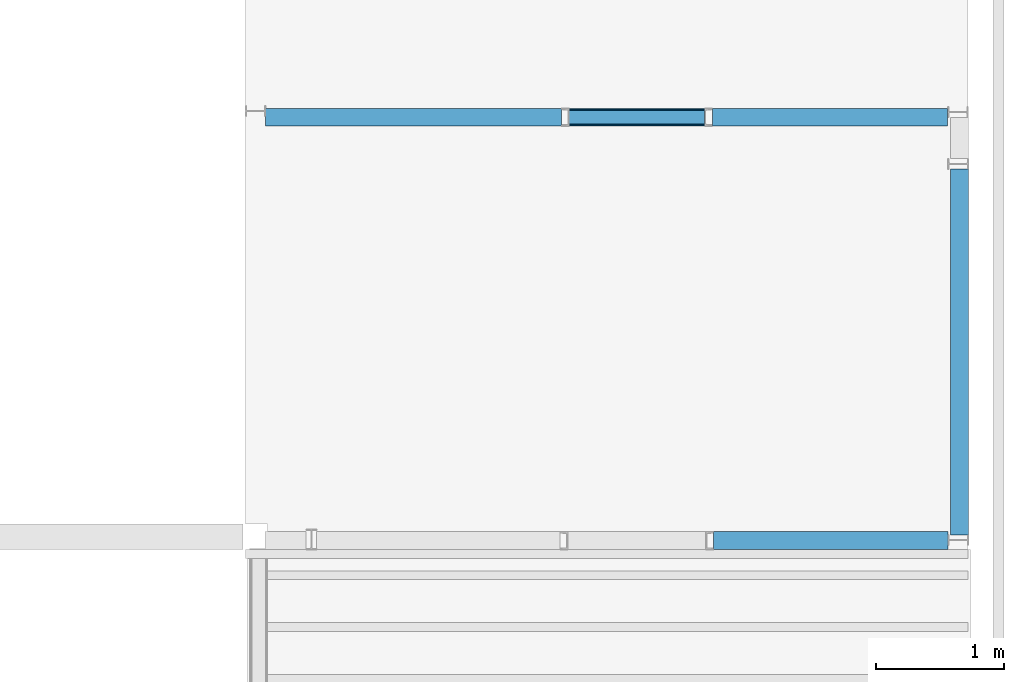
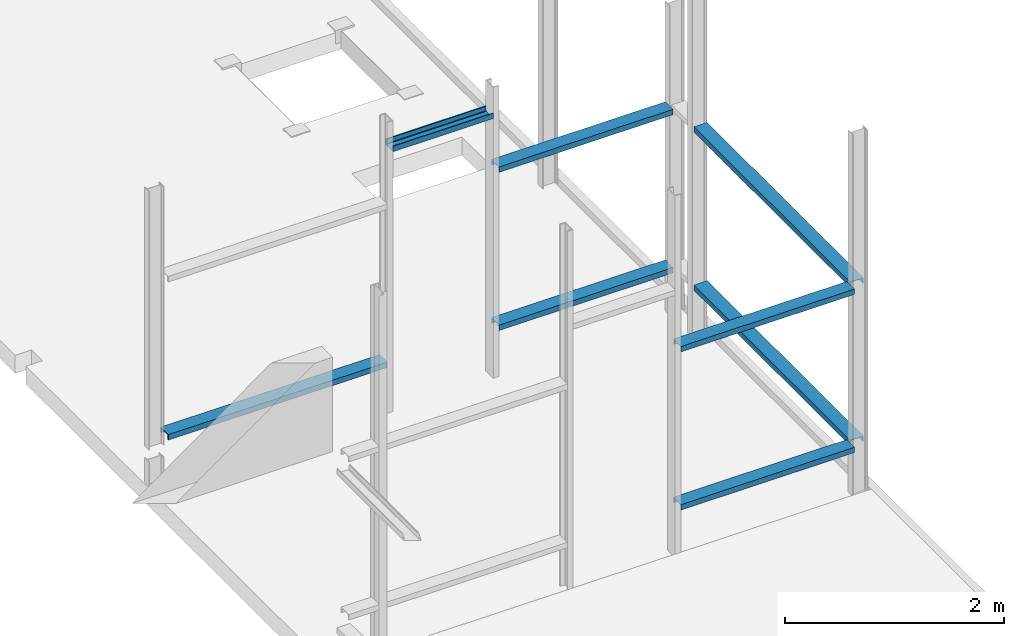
# One storey, part 5 of 8: 8 beams.
"""IFC2X3 building model written with IfcOpenShell, lengths in millimetres."""

import ifcopenshell
import ifcopenshell.guid

model = None  # the IFC model being written
_history = None  # IfcOwnerHistory: only IFC2X3 demands one
_inside = {}  # id of a spatial element -> (the spatial element, [elements in it])
_under = {}  # id of a project, library or spatial element -> (it, [spatial elements below it])
_declared = {}  # id of a project -> (the project, [libraries it declares])
_typed = {}  # id of a type object -> (the type object, [elements of that type])
_made_of = {}  # id of a material, layer set ... -> (it, [elements and type objects made of it])


def new_model(schema):
    """Start an empty IFC model of exactly this schema.

    Asked for "IFC4X3", IfcOpenShell would pick the latest addendum, in which some entities
    have other attributes; the version numbers below select the first issue.
    IFC2X3 requires an IfcOwnerHistory on every rooted entity: one is made here for all.
    """
    global model, _history
    if schema == "IFC4X3":
        model = ifcopenshell.file(schema_version=(4, 3, 0, 0))
    else:
        model = ifcopenshell.file(schema=schema)
    _inside.clear()
    _under.clear()
    _declared.clear()
    _typed.clear()
    _made_of.clear()
    _history = None
    if model.schema == "IFC2X3":
        org = make("IfcOrganization", Name="unknown")
        user = make(
            "IfcPersonAndOrganization",
            ThePerson=make("IfcPerson", FamilyName="unknown"),
            TheOrganization=org,
        )
        app = make(
            "IfcApplication",
            ApplicationDeveloper=org,
            Version="unknown",
            ApplicationFullName="unknown",
            ApplicationIdentifier="unknown",
        )
        _history = make(
            "IfcOwnerHistory",
            OwningUser=user,
            OwningApplication=app,
            ChangeAction="ADDED",
            CreationDate=0,
        )
    return model


def make(cls, **values):
    """One entity of the class cls with the attributes given. An attribute that is None is left unset."""
    return model.create_entity(
        cls, **{name: value for name, value in values.items() if value is not None}
    )


def entity(cls, *values):
    """Any entity or typed value of the class cls, its attributes in the order of the schema. None: left unset."""
    e = model.create_entity(cls)
    for i, value in enumerate(values):
        if value is not None:
            e[i] = value
    return e


def rooted(cls, **values):
    """An entity with a GlobalId (a new one), such as an element, a storey or a relation."""
    return make(cls, GlobalId=ifcopenshell.guid.new(), OwnerHistory=_history, **values)


def si_unit(unit_type, name, prefix=None):
    """IfcSIUnit, for example si_unit("LENGTHUNIT", "METRE", prefix="MILLI")."""
    return make("IfcSIUnit", UnitType=unit_type, Prefix=prefix, Name=name)


def converted_unit(unit_type, name, factor, base, dimensions=None, offset=None):
    """IfcConversionBasedUnit, such as the inch: factor (a typed value) times the base unit."""
    return make(
        "IfcConversionBasedUnit"
        if offset is None
        else "IfcConversionBasedUnitWithOffset",
        ConversionOffset=offset,
        Dimensions=None
        if dimensions is None
        else entity("IfcDimensionalExponents", *dimensions),
        UnitType=unit_type,
        Name=name,
        ConversionFactor=make(
            "IfcMeasureWithUnit", ValueComponent=factor, UnitComponent=base
        ),
    )


def derived_unit(unit_type, elements):
    """IfcDerivedUnit: a product of units, each with its exponent."""
    return make(
        "IfcDerivedUnit",
        Elements=[
            make("IfcDerivedUnitElement", Unit=unit, Exponent=power)
            for unit, power in elements
        ],
        UnitType=unit_type,
    )


def assignment(units):
    """IfcUnitAssignment: the units of a project."""
    return None if units is None else make("IfcUnitAssignment", Units=units)


def point(xyz):
    """IfcCartesianPoint."""
    return None if xyz is None else make("IfcCartesianPoint", Coordinates=xyz)


def direction(xyz):
    """IfcDirection."""
    return None if xyz is None else make("IfcDirection", DirectionRatios=xyz)


def frame(location, z_axis=None, x_axis=None):
    """IfcAxis2Placement3D, a coordinate frame: its origin and axes. An axis left out is left unset."""
    return make(
        "IfcAxis2Placement3D",
        Location=point(location),
        Axis=direction(z_axis),
        RefDirection=direction(x_axis),
    )


def frame_2d(location, x_axis=None):
    """IfcAxis2Placement2D, a coordinate frame in the plane: its origin and x axis."""
    return make(
        "IfcAxis2Placement2D", Location=point(location), RefDirection=direction(x_axis)
    )


def origin():
    """The frame at (0, 0, 0) with its axes left unset."""
    return frame((0.0, 0.0, 0.0))


def place(relative_to, where):
    """IfcLocalPlacement: puts the frame where relative to a parent placement (None: the world)."""
    return make(
        "IfcLocalPlacement", PlacementRelTo=relative_to, RelativePlacement=where
    )


def context(
    kind, dimensions, precision=None, world=None, true_north=None, identifier=None
):
    """IfcGeometricRepresentationContext, for example the 3D "Model" context."""
    return make(
        "IfcGeometricRepresentationContext",
        ContextIdentifier=identifier,
        ContextType=kind,
        CoordinateSpaceDimension=dimensions,
        Precision=precision,
        WorldCoordinateSystem=world,
        TrueNorth=true_north,
    )


def subcontext(parent, identifier, kind, view, scale=None):
    """IfcGeometricRepresentationSubContext, for example "Body" below "Model"."""
    return make(
        "IfcGeometricRepresentationSubContext",
        ContextIdentifier=identifier,
        ContextType=kind,
        ParentContext=parent,
        TargetScale=scale,
        TargetView=view,
    )


def project(units=None, contexts=None):
    """IfcProject with its units and contexts."""
    return rooted(
        "IfcProject",
        Name="project",
        RepresentationContexts=contexts,
        UnitsInContext=assignment(units),
    )


def spatial(cls, under=None, at=None, **own):
    """A site, building, storey or space (cls), placed at a placement, below another one or the project."""
    s = rooted(cls, ObjectPlacement=at, **own)
    if under is not None:
        _under.setdefault(under.id(), (under, []))[1].append(s)
    return s


def polyline(points):
    """IfcPolyline through the points."""
    return make("IfcPolyline", Points=[point(p) for p in points])


def circle_curve(where, radius):
    """IfcCircle in the frame where."""
    return make("IfcCircle", Position=where, Radius=radius)


def parameter(value):
    """IfcParameterValue: where a trimmed curve begins or ends, as a parameter of its basis curve."""
    return model.create_entity("IfcParameterValue", value)


def trimmed(basis, trim1, trim2, sense, master):
    """IfcTrimmedCurve: the piece of a basis curve between two trims."""
    return make(
        "IfcTrimmedCurve",
        BasisCurve=basis,
        Trim1=trim1,
        Trim2=trim2,
        SenseAgreement=sense,
        MasterRepresentation=master,
    )


def segment(curve, same_sense, transition):
    """IfcCompositeCurveSegment."""
    return make(
        "IfcCompositeCurveSegment",
        Transition=transition,
        SameSense=same_sense,
        ParentCurve=curve,
    )


def composite_curve(segments, self_intersect=None):
    """IfcCompositeCurve: segments joined end to end."""
    return make("IfcCompositeCurve", Segments=segments, SelfIntersect=self_intersect)


def outline(outer, holes=None, kind="AREA"):
    """IfcArbitraryClosedProfileDef: a profile drawn as a closed curve; with holes, ...WithVoids."""
    if holes is None:
        return make("IfcArbitraryClosedProfileDef", ProfileType=kind, OuterCurve=outer)
    return make(
        "IfcArbitraryProfileDefWithVoids",
        ProfileType=kind,
        OuterCurve=outer,
        InnerCurves=holes,
    )


def extrude(swept, where, along, depth):
    """IfcExtrudedAreaSolid: the profile swept, set in the frame where, extruded along a direction by depth."""
    return make(
        "IfcExtrudedAreaSolid",
        SweptArea=swept,
        Position=where,
        ExtrudedDirection=direction(along),
        Depth=depth,
    )


def shape(context_of_items, identifier, shape_type, items):
    """IfcShapeRepresentation: the items that make up one representation, for example the "Body"."""
    return make(
        "IfcShapeRepresentation",
        ContextOfItems=context_of_items,
        RepresentationIdentifier=identifier,
        RepresentationType=shape_type,
        Items=items,
    )


def material(Name=None, Category=None):
    """IfcMaterial."""
    return make("IfcMaterial", Name=Name, Category=Category)


def made_of(thing, what):
    """Note that an element or type object is made of a material, layer set ...; save() writes the relation."""
    if what is not None:
        _made_of.setdefault(what.id(), (what, []))[1].append(thing)
    return thing


def type_object(cls, material=None, **own):
    """A type object (cls), such as IfcWallType, which elements share."""
    return made_of(rooted(cls, **own), material)


def element(
    cls,
    number,
    at=None,
    inside=None,
    cuts=None,
    type_object=None,
    material=None,
    context=None,
    identifier="Body",
    shape_type=None,
    held_by="IfcProductDefinitionShape",
    body=None,
    shapes=None,
    **own,
):
    """One element of the class cls, such as IfcWall. Its Tag is "e" and its number.

    at: its placement. inside: the storey or other place that contains it. cuts: it is an
    opening in that element (IfcRelVoidsElement). A single representation is given by context,
    identifier, shape_type and body (its items); several are given by shapes. held_by: the class
    of the entity that holds the representations. save() writes the other relations.
    """
    e = rooted(cls, Tag="e%d" % number, ObjectPlacement=at, **own)
    if body is not None:
        shapes = [shape(context, identifier, shape_type, body)]
    if shapes is not None:
        e.Representation = make(held_by, Representations=shapes)
    if inside is not None:
        _inside.setdefault(inside.id(), (inside, []))[1].append(e)
    if cuts is not None:
        rooted(
            "IfcRelVoidsElement", RelatingBuildingElement=cuts, RelatedOpeningElement=e
        )
    if type_object is not None:
        _typed.setdefault(type_object.id(), (type_object, []))[1].append(e)
    return made_of(e, material)


def aggregate(whole, parts):
    """IfcRelAggregates: a whole, such as a stair, and the parts it consists of."""
    return rooted("IfcRelAggregates", RelatingObject=whole, RelatedObjects=parts)


def save(model, path):
    """Write the relations noted so far, then the file.

    IfcRelAggregates (storeys below a building ...), IfcRelContainedInSpatialStructure (elements
    in a storey), IfcRelDefinesByType, IfcRelAssociatesMaterial and IfcRelDeclares: one each for
    every whole, place, type object, material and project.
    """
    for whole, parts in _under.values():
        aggregate(whole, parts)
    for where, things in _inside.values():
        rooted(
            "IfcRelContainedInSpatialStructure",
            RelatedElements=things,
            RelatingStructure=where,
        )
    for kind, things in _typed.values():
        rooted("IfcRelDefinesByType", RelatedObjects=things, RelatingType=kind)
    for what, things in _made_of.values():
        rooted("IfcRelAssociatesMaterial", RelatedObjects=things, RelatingMaterial=what)
    for by, libraries in _declared.values():
        rooted("IfcRelDeclares", RelatingContext=by, RelatedDefinitions=libraries)
    model.write(path)


model = new_model("IFC2X3")

# Units and contexts
model_context = context("Model", 3, precision=0.01, world=origin(), true_north=direction((6.123031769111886e-17, 1.0)))
plan_context = context("Plan", 3, precision=0.01, world=origin(), true_north=direction((6.123031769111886e-17, 1.0)))
body_context = subcontext(model_context, "Body", "Model", "MODEL_VIEW")
ifc_project = project(units=[si_unit("LENGTHUNIT", "METRE", prefix="MILLI"), si_unit("AREAUNIT", "SQUARE_METRE"), si_unit("VOLUMEUNIT", "CUBIC_METRE"), converted_unit("PLANEANGLEUNIT", "DEGREE", entity("IfcPlaneAngleMeasure", 0.017453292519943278), si_unit("PLANEANGLEUNIT", "RADIAN"), dimensions=[0, 0, 0, 0, 0, 0, 0]), si_unit("MASSUNIT", "GRAM", prefix="KILO"), derived_unit("MASSDENSITYUNIT", [(si_unit("MASSUNIT", "GRAM", prefix="KILO"), 1), (si_unit("LENGTHUNIT", "METRE"), -3)]), derived_unit("IONCONCENTRATIONUNIT", [(si_unit("MASSUNIT", "GRAM", prefix="KILO"), 1), (si_unit("LENGTHUNIT", "METRE"), -3)]), derived_unit("MOMENTOFINERTIAUNIT", [(si_unit("LENGTHUNIT", "METRE"), 4)]), si_unit("TIMEUNIT", "SECOND"), si_unit("FREQUENCYUNIT", "HERTZ"), si_unit("THERMODYNAMICTEMPERATUREUNIT", "DEGREE_CELSIUS"), derived_unit("THERMALTRANSMITTANCEUNIT", [(si_unit("MASSUNIT", "GRAM", prefix="KILO"), 1), (si_unit("THERMODYNAMICTEMPERATUREUNIT", "KELVIN"), -1), (si_unit("TIMEUNIT", "SECOND"), -3)]), derived_unit("THERMALCONDUCTANCEUNIT", [(si_unit("MASSUNIT", "GRAM", prefix="KILO"), 1), (si_unit("THERMODYNAMICTEMPERATUREUNIT", "KELVIN"), -1), (si_unit("TIMEUNIT", "SECOND"), -3), (si_unit("LENGTHUNIT", "METRE"), 1)]), derived_unit("VOLUMETRICFLOWRATEUNIT", [(si_unit("LENGTHUNIT", "METRE", prefix="DECI"), 3), (si_unit("TIMEUNIT", "SECOND"), -1)]), derived_unit("MASSFLOWRATEUNIT", [(si_unit("MASSUNIT", "GRAM", prefix="KILO"), 1), (si_unit("TIMEUNIT", "SECOND"), -1)]), derived_unit("ROTATIONALFREQUENCYUNIT", [(si_unit("TIMEUNIT", "SECOND"), -1)]), si_unit("ELECTRICCURRENTUNIT", "AMPERE"), si_unit("ELECTRICVOLTAGEUNIT", "VOLT"), si_unit("POWERUNIT", "WATT"), si_unit("FORCEUNIT", "NEWTON", prefix="KILO"), si_unit("ILLUMINANCEUNIT", "LUX"), si_unit("LUMINOUSFLUXUNIT", "LUMEN"), si_unit("LUMINOUSINTENSITYUNIT", "CANDELA"), si_unit("ENERGYUNIT", "JOULE"), derived_unit("USERDEFINED", [(si_unit("MASSUNIT", "GRAM", prefix="KILO"), -1), (si_unit("LENGTHUNIT", "METRE"), -2), (si_unit("TIMEUNIT", "SECOND"), 3), (si_unit("LUMINOUSFLUXUNIT", "LUMEN"), 1)]), derived_unit("USERDEFINED", [(si_unit("MASSUNIT", "GRAM", prefix="KILO"), 1), (si_unit("TIMEUNIT", "SECOND"), -3), (si_unit("LENGTHUNIT", "METRE"), 3), (si_unit("ELECTRICCURRENTUNIT", "AMPERE"), -2)]), derived_unit("SOUNDPOWERUNIT", [(si_unit("MASSUNIT", "GRAM", prefix="KILO"), 1), (si_unit("TIMEUNIT", "SECOND"), -3), (si_unit("LENGTHUNIT", "METRE"), 2)]), derived_unit("SOUNDPRESSUREUNIT", [(si_unit("MASSUNIT", "GRAM", prefix="KILO"), 1), (si_unit("LENGTHUNIT", "METRE"), -1), (si_unit("TIMEUNIT", "SECOND"), -2)]), derived_unit("LINEARVELOCITYUNIT", [(si_unit("LENGTHUNIT", "METRE"), 1), (si_unit("TIMEUNIT", "SECOND"), -1)]), si_unit("PRESSUREUNIT", "PASCAL"), derived_unit("USERDEFINED", [(si_unit("MASSUNIT", "GRAM", prefix="KILO"), 1), (si_unit("LENGTHUNIT", "METRE"), -2), (si_unit("TIMEUNIT", "SECOND"), -2)]), derived_unit("LINEARFORCEUNIT", [(si_unit("MASSUNIT", "GRAM", prefix="KILO"), 1), (si_unit("TIMEUNIT", "SECOND"), -2)]), derived_unit("PLANARFORCEUNIT", [(si_unit("MASSUNIT", "GRAM", prefix="KILO"), 1), (si_unit("LENGTHUNIT", "METRE"), -1), (si_unit("TIMEUNIT", "SECOND"), -2)]), derived_unit("SPECIFICHEATCAPACITYUNIT", [(si_unit("THERMODYNAMICTEMPERATUREUNIT", "KELVIN"), -1), (si_unit("LENGTHUNIT", "METRE"), 2), (si_unit("TIMEUNIT", "SECOND"), -2)]), derived_unit("HEATFLUXDENSITYUNIT", [(si_unit("MASSUNIT", "GRAM", prefix="KILO"), 1), (si_unit("TIMEUNIT", "SECOND"), -3)]), derived_unit("HEATINGVALUEUNIT", [(si_unit("LENGTHUNIT", "METRE"), 2), (si_unit("TIMEUNIT", "SECOND"), -2)]), derived_unit("VAPORPERMEABILITYUNIT", [(si_unit("LENGTHUNIT", "METRE"), -1), (si_unit("TIMEUNIT", "SECOND"), 1)]), derived_unit("DYNAMICVISCOSITYUNIT", [(si_unit("MASSUNIT", "GRAM", prefix="KILO"), 1), (si_unit("TIMEUNIT", "SECOND"), -1), (si_unit("LENGTHUNIT", "METRE"), -1)]), derived_unit("THERMALEXPANSIONCOEFFICIENTUNIT", [(si_unit("THERMODYNAMICTEMPERATUREUNIT", "KELVIN"), -1)]), derived_unit("MODULUSOFELASTICITYUNIT", [(si_unit("MASSUNIT", "GRAM", prefix="KILO"), 1), (si_unit("LENGTHUNIT", "METRE"), -1), (si_unit("TIMEUNIT", "SECOND"), -2)]), derived_unit("ISOTHERMALMOISTURECAPACITYUNIT", [(si_unit("MASSUNIT", "GRAM", prefix="KILO"), -1), (si_unit("LENGTHUNIT", "METRE"), 3)]), derived_unit("MOISTUREDIFFUSIVITYUNIT", [(si_unit("TIMEUNIT", "SECOND"), -1), (si_unit("LENGTHUNIT", "METRE"), 2)]), derived_unit("MASSPERLENGTHUNIT", [(si_unit("MASSUNIT", "GRAM", prefix="KILO"), 1), (si_unit("LENGTHUNIT", "METRE"), -1)]), derived_unit("THERMALRESISTANCEUNIT", [(si_unit("MASSUNIT", "GRAM", prefix="KILO"), -1), (si_unit("TIMEUNIT", "SECOND"), 3), (si_unit("THERMODYNAMICTEMPERATUREUNIT", "KELVIN"), 1)]), derived_unit("ACCELERATIONUNIT", [(si_unit("LENGTHUNIT", "METRE"), 1), (si_unit("TIMEUNIT", "SECOND"), -2)]), derived_unit("ANGULARVELOCITYUNIT", [(si_unit("TIMEUNIT", "SECOND"), -1), (si_unit("PLANEANGLEUNIT", "RADIAN"), 1)]), derived_unit("LINEARSTIFFNESSUNIT", [(si_unit("MASSUNIT", "GRAM", prefix="KILO"), 1), (si_unit("TIMEUNIT", "SECOND"), -2)]), derived_unit("WARPINGCONSTANTUNIT", [(si_unit("LENGTHUNIT", "METRE"), 6)]), derived_unit("LINEARMOMENTUNIT", [(si_unit("MASSUNIT", "GRAM", prefix="KILO"), 1), (si_unit("LENGTHUNIT", "METRE"), 1), (si_unit("TIMEUNIT", "SECOND"), -2)]), derived_unit("TORQUEUNIT", [(si_unit("MASSUNIT", "GRAM", prefix="KILO"), 1), (si_unit("LENGTHUNIT", "METRE"), 2), (si_unit("TIMEUNIT", "SECOND"), -2)])], contexts=[model_context, plan_context])

# Site, building, storey
site_placement = place(None, origin())
site = spatial("IfcSite", under=ifc_project, at=site_placement, Name="Default", CompositionType="ELEMENT")
building_placement = place(site_placement, origin())
building = spatial("IfcBuilding", under=site, at=building_placement, CompositionType="ELEMENT")
storey_placement = place(building_placement, frame((0.0, 0.0, 3410.0)))
storey = spatial("IfcBuildingStorey", under=building, at=storey_placement, Name="01 eerste verdieping", CompositionType="ELEMENT", Elevation=3410.0000000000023)

# Beams
ifc_material = material(Name="constructiestaal S235")
beam_type = type_object("IfcBeamType", Name="28_SF_LIB_UNP ligger_dw:UNP140 (S235)", PredefinedType="NOTDEFINED")
beam_1_placement = place(storey_placement, frame((54062.19293735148, 27532.502495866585, 2300.0)))
element("IfcBeam", 1, at=beam_1_placement, inside=storey, type_object=beam_type, material=ifc_material, Name="28_SF_LIB_UNP ligger_dw:UNP140 (S235)", ObjectType="28_SF_LIB_UNP ligger_dw:UNP140 (S235)", context=body_context, shape_type="SweptSolid", body=[
    extrude(outline(composite_curve([segment(polyline([(-33.16666666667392, -69.9376027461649), (26.833333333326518, -69.9376027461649)]), True, "CONTINUOUS"), segment(polyline([(26.833333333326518, -69.93760274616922), (26.833333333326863, -65.16520177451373)]), True, "CONTINUOUS"), segment(trimmed(circle_curve(frame_2d((21.833333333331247, -65.16520177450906), x_axis=(1.0, 0.0)), 4.999999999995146), [parameter(0.0)], [parameter(90.00000000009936)], True, "PARAMETER"), True, "CONTINUOUS"), segment(polyline([(21.83333333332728, -60.165201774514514), (-16.166666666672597, -58.14041273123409)]), True, "CONTINUOUS"), segment(trimmed(circle_curve(frame_2d((-16.166666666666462, -48.14041273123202), x_axis=(0.0, -1.0)), 10.00000000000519), [parameter(270.00000000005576)], [parameter(0.0)], True, "PARAMETER"), False, "CONTINUOUS"), segment(polyline([(-26.16666666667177, -48.14041273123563), (-26.166666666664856, 47.62586063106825)]), True, "CONTINUOUS"), segment(trimmed(circle_curve(frame_2d((-16.166666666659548, 47.62586063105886), x_axis=(-1.0, 0.0)), 10.000000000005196), [parameter(270.00000000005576)], [parameter(0.0)], True, "PARAMETER"), False, "CONTINUOUS"), segment(polyline([(-16.16666666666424, 57.625860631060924), (21.833333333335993, 60.55495936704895)]), True, "CONTINUOUS"), segment(trimmed(circle_curve(frame_2d((21.833333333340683, 65.55495936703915), x_axis=(0.0, -1.0)), 4.999999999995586), [parameter(0.0)], [parameter(90.00000000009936)], True, "PARAMETER"), True, "CONTINUOUS"), segment(polyline([(26.8333333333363, 65.55495936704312), (26.833333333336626, 70.0623972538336)]), True, "CONTINUOUS"), segment(polyline([(26.833333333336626, 70.0623972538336), (-33.16666666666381, 70.06239725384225)]), True, "CONTINUOUS"), segment(polyline([(-33.16666666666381, 70.06239725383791), (-33.16666666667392, -69.93760274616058)]), True, "CONTINUOUS")], self_intersect=False)), frame((6.095988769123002e-07, -70.06239725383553, -33.16666666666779), z_axis=(1.0, 0.0, 0.0), x_axis=(0.0, 0.0, -1.0)), (0.0, 0.0, 1.0), 1827.499999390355),
])
beam_2_placement = place(storey_placement, frame((54062.19293735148, 27532.502495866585, 540.0)))
element("IfcBeam", 2, at=beam_2_placement, inside=storey, type_object=beam_type, material=ifc_material, Name="28_SF_LIB_UNP ligger_dw:UNP140 (S235)", ObjectType="28_SF_LIB_UNP ligger_dw:UNP140 (S235)", context=body_context, shape_type="SweptSolid", body=[
    extrude(outline(composite_curve([segment(polyline([(-33.1666666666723, -69.9376027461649), (26.833333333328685, -69.9376027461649)]), True, "CONTINUOUS"), segment(polyline([(26.833333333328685, -69.93760274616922), (26.83333333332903, -65.16520177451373)]), True, "CONTINUOUS"), segment(trimmed(circle_curve(frame_2d((21.833333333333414, -65.16520177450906), x_axis=(1.0, 0.0)), 4.999999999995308), [parameter(0.0)], [parameter(90.00000000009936)], True, "PARAMETER"), True, "CONTINUOUS"), segment(polyline([(21.83333333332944, -60.165201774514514), (-16.166666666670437, -58.14041273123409)]), True, "CONTINUOUS"), segment(trimmed(circle_curve(frame_2d((-16.1666666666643, -48.14041273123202), x_axis=(0.0, -1.0)), 10.000000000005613), [parameter(270.00000000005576)], [parameter(0.0)], True, "PARAMETER"), False, "CONTINUOUS"), segment(polyline([(-26.16666666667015, -48.14041273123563), (-26.166666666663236, 47.62586063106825)]), True, "CONTINUOUS"), segment(trimmed(circle_curve(frame_2d((-16.166666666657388, 47.62586063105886), x_axis=(-1.0, 0.0)), 10.000000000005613), [parameter(270.00000000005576)], [parameter(0.0)], True, "PARAMETER"), False, "CONTINUOUS"), segment(polyline([(-16.16666666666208, 57.625860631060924), (21.833333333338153, 60.55495936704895)]), True, "CONTINUOUS"), segment(trimmed(circle_curve(frame_2d((21.833333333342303, 65.55495936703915), x_axis=(0.0, -1.0)), 4.999999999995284), [parameter(0.0)], [parameter(90.00000000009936)], True, "PARAMETER"), True, "CONTINUOUS"), segment(polyline([(26.83333333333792, 65.55495936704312), (26.833333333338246, 70.0623972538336)]), True, "CONTINUOUS"), segment(polyline([(26.833333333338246, 70.0623972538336), (-33.16666666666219, 70.06239725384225)]), True, "CONTINUOUS"), segment(polyline([(-33.16666666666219, 70.06239725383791), (-33.1666666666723, -69.93760274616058)]), True, "CONTINUOUS")], self_intersect=False)), frame((6.096020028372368e-07, -70.06239725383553, -33.16666666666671), z_axis=(1.0, 0.0, 0.0), x_axis=(0.0, 0.0, -1.0)), (0.0, 0.0, 1.0), 1827.499999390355),
])
beam_3_placement = place(storey_placement, frame((55909.69293735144, 27508.320485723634, 2300.0), z_axis=(0.0, 0.0, 1.0), x_axis=(0.0, 1.0, 0.0)))
element("IfcBeam", 3, at=beam_3_placement, inside=storey, type_object=beam_type, material=ifc_material, Name="28_SF_LIB_UNP ligger_dw:UNP140 (S235)", ObjectType="28_SF_LIB_UNP ligger_dw:UNP140 (S235)", context=body_context, shape_type="SweptSolid", body=[
    extrude(outline(composite_curve([segment(polyline([(-33.166666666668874, -69.93760274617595), (26.833333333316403, -69.93760274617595)]), True, "CONTINUOUS"), segment(polyline([(26.833333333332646, -69.93760274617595), (26.83333333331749, -65.16520177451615)]), True, "CONTINUOUS"), segment(trimmed(circle_curve(frame_2d((21.833333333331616, -65.16520177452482), x_axis=(1.0, 0.0)), 5.0000000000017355), [parameter(0.0)], [parameter(89.99999999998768)], True, "PARAMETER"), True, "CONTINUOUS"), segment(polyline([(21.833333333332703, -60.165201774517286), (-16.166666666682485, -58.14041273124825)]), True, "CONTINUOUS"), segment(trimmed(circle_curve(frame_2d((-16.166666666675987, -48.14041273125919), x_axis=(0.0, -1.0)), 9.999999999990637), [parameter(269.99999999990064)], [parameter(0.0)], True, "PARAMETER"), False, "CONTINUOUS"), segment(polyline([(-26.166666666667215, -48.14041273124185), (-26.166666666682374, 47.62586063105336)]), True, "CONTINUOUS"), segment(trimmed(circle_curve(frame_2d((-16.166666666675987, 47.625860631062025), x_axis=(-1.0, 0.0)), 9.999999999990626), [parameter(269.99999999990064)], [parameter(0.0)], True, "PARAMETER"), False, "CONTINUOUS"), segment(polyline([(-16.16666666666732, 57.62586063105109), (21.83333333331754, 60.554959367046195)]), True, "CONTINUOUS"), segment(trimmed(circle_curve(frame_2d((21.833333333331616, 65.55495936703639), x_axis=(0.0, -1.0)), 5.000000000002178), [parameter(0.0)], [parameter(89.99999999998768)], True, "PARAMETER"), True, "CONTINUOUS"), segment(polyline([(26.833333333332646, 65.55495936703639), (26.83333333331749, 70.06239725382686)]), True, "CONTINUOUS"), segment(polyline([(26.833333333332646, 70.06239725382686), (-33.16666666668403, 70.06239725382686)]), True, "CONTINUOUS"), segment(polyline([(-33.16666666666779, 70.06239725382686), (-33.16666666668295, -69.93760274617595)]), True, "CONTINUOUS")], self_intersect=False)), frame((0.0, -70.06239725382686, -33.16666666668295), z_axis=(1.0, 0.0, 0.0), x_axis=(0.0, 0.0, -1.0)), (0.0, 0.0, 1.0), 2850.349999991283),
])
beam_4_placement = place(storey_placement, frame((55909.69293735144, 27508.320485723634, 540.0), z_axis=(0.0, 0.0, 1.0), x_axis=(0.0, 1.0, 0.0)))
element("IfcBeam", 4, at=beam_4_placement, inside=storey, type_object=beam_type, material=ifc_material, Name="28_SF_LIB_UNP ligger_dw:UNP140 (S235)", ObjectType="28_SF_LIB_UNP ligger_dw:UNP140 (S235)", context=body_context, shape_type="SweptSolid", body=[
    extrude(outline(composite_curve([segment(polyline([(-33.166666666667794, -69.93760274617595), (26.833333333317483, -69.93760274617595)]), True, "CONTINUOUS"), segment(polyline([(26.833333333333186, -69.93760274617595), (26.833333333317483, -65.16520177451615)]), True, "CONTINUOUS"), segment(trimmed(circle_curve(frame_2d((21.833333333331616, -65.16520177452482), x_axis=(1.0, 0.0)), 5.000000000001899), [parameter(0.0)], [parameter(89.99999999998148)], True, "PARAMETER"), True, "CONTINUOUS"), segment(polyline([(21.833333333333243, -60.165201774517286), (-16.166666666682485, -58.14041273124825)]), True, "CONTINUOUS"), segment(trimmed(circle_curve(frame_2d((-16.166666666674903, -48.14041273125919), x_axis=(0.0, -1.0)), 9.999999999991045), [parameter(269.9999999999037)], [parameter(0.0)], True, "PARAMETER"), False, "CONTINUOUS"), segment(polyline([(-26.16666666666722, -48.14041273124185), (-26.166666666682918, 47.62586063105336)]), True, "CONTINUOUS"), segment(trimmed(circle_curve(frame_2d((-16.166666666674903, 47.625860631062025), x_axis=(-1.0, 0.0)), 9.999999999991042), [parameter(269.9999999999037)], [parameter(0.0)], True, "PARAMETER"), False, "CONTINUOUS"), segment(polyline([(-16.166666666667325, 57.62586063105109), (21.833333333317, 60.554959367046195)]), True, "CONTINUOUS"), segment(trimmed(circle_curve(frame_2d((21.833333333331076, 65.55495936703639), x_axis=(0.0, -1.0)), 5.0000000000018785), [parameter(0.0)], [parameter(89.99999999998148)], True, "PARAMETER"), True, "CONTINUOUS"), segment(polyline([(26.833333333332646, 65.55495936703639), (26.833333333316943, 70.06239725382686)]), True, "CONTINUOUS"), segment(polyline([(26.833333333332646, 70.06239725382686), (-33.16666666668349, 70.06239725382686)]), True, "CONTINUOUS"), segment(polyline([(-33.166666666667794, 70.06239725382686), (-33.16666666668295, -69.93760274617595)]), True, "CONTINUOUS")], self_intersect=False)), frame((0.0, -70.06239725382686, -33.16666666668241), z_axis=(1.0, 0.0, 0.0), x_axis=(0.0, 0.0, -1.0)), (0.0, 0.0, 1.0), 2850.349999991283),
])
beam_5_placement = place(storey_placement, frame((52936.19293735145, 30692.6704857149, 2860.0)))
element("IfcBeam", 5, at=beam_5_placement, inside=storey, type_object=beam_type, material=ifc_material, Name="28_SF_LIB_UNP ligger_dw:UNP140 (S235)", ObjectType="28_SF_LIB_UNP ligger_dw:UNP140 (S235)", context=body_context, shape_type="SweptSolid", body=[
    extrude(outline(composite_curve([segment(polyline([(-26.833333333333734, -70.06239725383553), (33.16666666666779, -70.06239725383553)]), True, "CONTINUOUS"), segment(polyline([(33.16666666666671, -70.06239725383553), (33.16666666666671, 69.93760274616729)]), True, "CONTINUOUS"), segment(polyline([(33.16666666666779, 69.93760274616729), (-26.833333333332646, 69.93760274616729)]), True, "CONTINUOUS"), segment(polyline([(-26.833333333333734, 69.93760274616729), (-26.833333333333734, 65.16520177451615)]), True, "CONTINUOUS"), segment(trimmed(circle_curve(frame_2d((-21.833333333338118, 65.16520177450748), x_axis=(-1.0, 0.0)), 4.999999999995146), [parameter(0.0)], [parameter(90.00000000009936)], True, "PARAMETER"), True, "CONTINUOUS"), segment(polyline([(-21.833333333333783, 60.165201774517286), (16.16666666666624, 58.1404127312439)]), True, "CONTINUOUS"), segment(trimmed(circle_curve(frame_2d((16.166666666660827, 48.140412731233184), x_axis=(0.0, 1.0)), 10.00000000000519), [parameter(270.00000000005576)], [parameter(0.0)], True, "PARAMETER"), False, "CONTINUOUS"), segment(polyline([(26.16666666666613, 48.14041273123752), (26.16666666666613, -47.6258606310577)]), True, "CONTINUOUS"), segment(trimmed(circle_curve(frame_2d((16.166666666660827, -47.6258606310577), x_axis=(1.0, 0.0)), 10.000000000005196), [parameter(270.00000000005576)], [parameter(0.0)], True, "PARAMETER"), False, "CONTINUOUS"), segment(polyline([(16.16666666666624, -57.62586063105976), (-21.833333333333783, -60.554959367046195)]), True, "CONTINUOUS"), segment(trimmed(circle_curve(frame_2d((-21.833333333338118, -65.55495936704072), x_axis=(0.0, 1.0)), 4.999999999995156), [parameter(0.0)], [parameter(90.00000000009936)], True, "PARAMETER"), True, "CONTINUOUS"), segment(polyline([(-26.833333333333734, -65.55495936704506), (-26.833333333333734, -70.0623972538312)]), True, "CONTINUOUS")], self_intersect=False)), frame((0.0, 70.06239725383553, 33.16666666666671), z_axis=(1.0, 0.0, 0.0), x_axis=(0.0, 0.0, -1.0)), (0.0, 0.0, 1.0), 1055.9999999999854),
])
beam_6_placement = place(storey_placement, frame((50571.19293735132, 30832.6704857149, 540.0)))
element("IfcBeam", 6, at=beam_6_placement, inside=storey, type_object=beam_type, material=ifc_material, Name="28_SF_LIB_UNP ligger_dw:UNP140 (S235)", ObjectType="28_SF_LIB_UNP ligger_dw:UNP140 (S235)", context=body_context, shape_type="SweptSolid", body=[
    extrude(outline(composite_curve([segment(polyline([(-33.16666666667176, -69.93760274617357), (26.833333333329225, -69.93760274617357)]), True, "CONTINUOUS"), segment(polyline([(26.833333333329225, -69.93760274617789), (26.83333333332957, -65.1652017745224)]), True, "CONTINUOUS"), segment(trimmed(circle_curve(frame_2d((21.833333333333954, -65.16520177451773), x_axis=(1.0, 0.0)), 4.999999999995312), [parameter(0.0)], [parameter(90.00000000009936)], True, "PARAMETER"), True, "CONTINUOUS"), segment(polyline([(21.83333333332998, -60.16520177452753), (-16.166666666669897, -58.14041273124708)]), True, "CONTINUOUS"), segment(trimmed(circle_curve(frame_2d((-16.16666666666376, -48.14041273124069), x_axis=(0.0, -1.0)), 10.000000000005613), [parameter(270.00000000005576)], [parameter(0.0)], True, "PARAMETER"), False, "CONTINUOUS"), segment(polyline([(-26.16666666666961, -48.1404127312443), (-26.166666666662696, 47.62586063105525)]), True, "CONTINUOUS"), segment(trimmed(circle_curve(frame_2d((-16.166666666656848, 47.625860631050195), x_axis=(-1.0, 0.0)), 10.000000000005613), [parameter(270.00000000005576)], [parameter(0.0)], True, "PARAMETER"), False, "CONTINUOUS"), segment(polyline([(-16.16666666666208, 57.625860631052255), (21.833333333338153, 60.55495936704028)]), True, "CONTINUOUS"), segment(trimmed(circle_curve(frame_2d((21.833333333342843, 65.55495936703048), x_axis=(0.0, -1.0)), 4.999999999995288), [parameter(0.0)], [parameter(90.00000000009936)], True, "PARAMETER"), True, "CONTINUOUS"), segment(polyline([(26.83333333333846, 65.55495936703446), (26.833333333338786, 70.06239725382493)]), True, "CONTINUOUS"), segment(polyline([(26.833333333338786, 70.06239725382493), (-33.16666666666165, 70.06239725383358)]), True, "CONTINUOUS"), segment(polyline([(-33.16666666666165, 70.06239725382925), (-33.16666666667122, -69.93760274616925)]), True, "CONTINUOUS")], self_intersect=False)), frame((0.0, -70.06239725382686, -33.16666666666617), z_axis=(1.0, 0.0, 0.0), x_axis=(0.0, 0.0, -1.0)), (0.0, 0.0, 1.0), 2304.9999993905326),
])
beam_7_placement = place(storey_placement, frame((54062.192937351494, 30832.6704857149, 2300.0)))
element("IfcBeam", 7, at=beam_7_placement, inside=storey, type_object=beam_type, material=ifc_material, Name="28_SF_LIB_UNP ligger_dw:UNP140 (S235)", ObjectType="28_SF_LIB_UNP ligger_dw:UNP140 (S235)", context=body_context, shape_type="SweptSolid", body=[
    extrude(outline(composite_curve([segment(polyline([(-33.16666666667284, -69.93760274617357), (26.833333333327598, -69.93760274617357)]), True, "CONTINUOUS"), segment(polyline([(26.833333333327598, -69.93760274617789), (26.833333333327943, -65.1652017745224)]), True, "CONTINUOUS"), segment(trimmed(circle_curve(frame_2d((21.833333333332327, -65.16520177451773), x_axis=(1.0, 0.0)), 4.999999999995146), [parameter(0.0)], [parameter(90.00000000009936)], True, "PARAMETER"), True, "CONTINUOUS"), segment(polyline([(21.83333333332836, -60.16520177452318), (-16.166666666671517, -58.14041273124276)]), True, "CONTINUOUS"), segment(trimmed(circle_curve(frame_2d((-16.16666666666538, -48.14041273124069), x_axis=(0.0, -1.0)), 10.00000000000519), [parameter(270.00000000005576)], [parameter(0.0)], True, "PARAMETER"), False, "CONTINUOUS"), segment(polyline([(-26.16666666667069, -48.1404127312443), (-26.166666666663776, 47.62586063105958)]), True, "CONTINUOUS"), segment(trimmed(circle_curve(frame_2d((-16.166666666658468, 47.625860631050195), x_axis=(-1.0, 0.0)), 10.000000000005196), [parameter(270.00000000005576)], [parameter(0.0)], True, "PARAMETER"), False, "CONTINUOUS"), segment(polyline([(-16.16666666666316, 57.625860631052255), (21.833333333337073, 60.55495936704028)]), True, "CONTINUOUS"), segment(trimmed(circle_curve(frame_2d((21.833333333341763, 65.55495936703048), x_axis=(0.0, -1.0)), 4.999999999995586), [parameter(0.0)], [parameter(90.00000000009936)], True, "PARAMETER"), True, "CONTINUOUS"), segment(polyline([(26.83333333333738, 65.55495936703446), (26.833333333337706, 70.06239725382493)]), True, "CONTINUOUS"), segment(polyline([(26.833333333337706, 70.06239725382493), (-33.16666666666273, 70.06239725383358)]), True, "CONTINUOUS"), segment(polyline([(-33.16666666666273, 70.06239725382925), (-33.16666666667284, -69.93760274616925)]), True, "CONTINUOUS")], self_intersect=False)), frame((-10.0, -70.06239725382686, -33.16666666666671), z_axis=(1.0, 0.0, 0.0), x_axis=(0.0, 0.0, -1.0)), (0.0, 0.0, 1.0), 1834.0000000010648),
])
beam_8_placement = place(storey_placement, frame((54062.192937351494, 30832.6704857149, 540.0)))
element("IfcBeam", 8, at=beam_8_placement, inside=storey, type_object=beam_type, material=ifc_material, Name="28_SF_LIB_UNP ligger_dw:UNP140 (S235)", ObjectType="28_SF_LIB_UNP ligger_dw:UNP140 (S235)", context=body_context, shape_type="SweptSolid", body=[
    extrude(outline(composite_curve([segment(polyline([(-33.1666666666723, -69.93760274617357), (26.833333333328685, -69.93760274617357)]), True, "CONTINUOUS"), segment(polyline([(26.833333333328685, -69.93760274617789), (26.83333333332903, -65.1652017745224)]), True, "CONTINUOUS"), segment(trimmed(circle_curve(frame_2d((21.833333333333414, -65.16520177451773), x_axis=(1.0, 0.0)), 4.999999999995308), [parameter(0.0)], [parameter(90.00000000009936)], True, "PARAMETER"), True, "CONTINUOUS"), segment(polyline([(21.83333333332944, -60.16520177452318), (-16.166666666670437, -58.14041273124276)]), True, "CONTINUOUS"), segment(trimmed(circle_curve(frame_2d((-16.1666666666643, -48.14041273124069), x_axis=(0.0, -1.0)), 10.000000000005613), [parameter(270.00000000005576)], [parameter(0.0)], True, "PARAMETER"), False, "CONTINUOUS"), segment(polyline([(-26.16666666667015, -48.1404127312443), (-26.166666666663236, 47.62586063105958)]), True, "CONTINUOUS"), segment(trimmed(circle_curve(frame_2d((-16.166666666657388, 47.625860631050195), x_axis=(-1.0, 0.0)), 10.000000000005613), [parameter(270.00000000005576)], [parameter(0.0)], True, "PARAMETER"), False, "CONTINUOUS"), segment(polyline([(-16.16666666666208, 57.625860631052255), (21.833333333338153, 60.55495936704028)]), True, "CONTINUOUS"), segment(trimmed(circle_curve(frame_2d((21.833333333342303, 65.55495936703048), x_axis=(0.0, -1.0)), 4.999999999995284), [parameter(0.0)], [parameter(90.00000000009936)], True, "PARAMETER"), True, "CONTINUOUS"), segment(polyline([(26.83333333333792, 65.55495936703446), (26.833333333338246, 70.06239725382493)]), True, "CONTINUOUS"), segment(polyline([(26.833333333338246, 70.06239725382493), (-33.16666666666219, 70.06239725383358)]), True, "CONTINUOUS"), segment(polyline([(-33.16666666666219, 70.06239725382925), (-33.1666666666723, -69.93760274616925)]), True, "CONTINUOUS")], self_intersect=False)), frame((-10.0, -70.06239725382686, -33.16666666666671), z_axis=(1.0, 0.0, 0.0), x_axis=(0.0, 0.0, -1.0)), (0.0, 0.0, 1.0), 1834.0000000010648),
])

save(model, "model.ifc")
